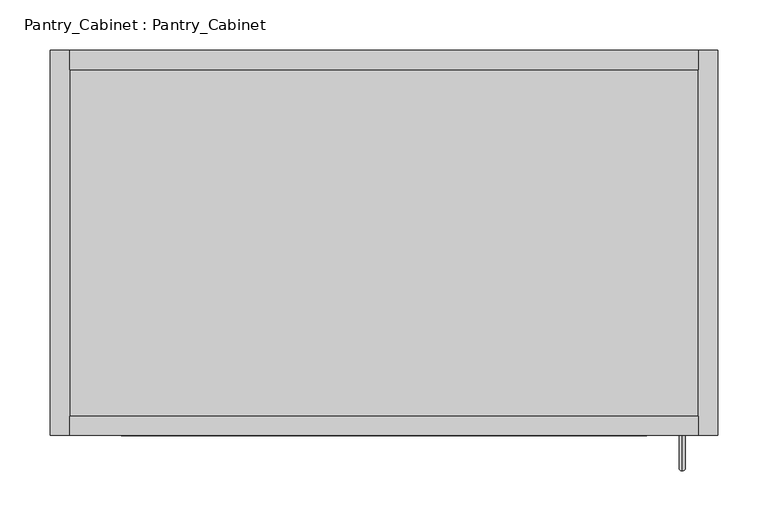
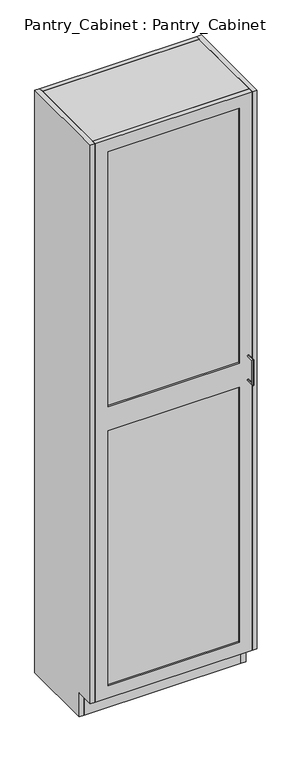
"""IFC4 building model written with IfcOpenShell, lengths in millimetres: furniture geometry, Pantry_Cabinet : Pantry_Cabinet."""

from ifc_helpers import new_model, si_unit, frame, origin, origin_with_axes, place, context, project, spatial, polyline, circle_curve, ellipse_curve, outline, extrude, source, transform, mapped, element, save
from ifc_brep_helpers import plane_surface, cylinder_surface, advanced_brep


def pantry_cabinet_pantry_cabinet_f1bca42e(model_context):
    return source(origin(), model_context, "Body", "SolidModel", [
        advanced_brep(
        [(34.6127049, -635.0, 1241.425), (34.6127049, -635.0, 1235.075), (34.6127049, -663.575, 1241.425), (34.6127049, -669.925, 1235.075), (34.6127049, -663.575, 1336.675), (34.6127049, -669.925, 1343.025), (34.6127049, -635.0, 1336.675), (34.6127049, -635.0, 1343.025)],
        [
            (0, 1, circle_curve(frame((34.6127049, -635.0, 1238.25), z_axis=(0.0, 1.0, 0.0), x_axis=(0.0, 0.0, -1.0)), 3.175)),
            (1, 0, circle_curve(frame((34.6127049, -635.0, 1238.25), z_axis=(0.0, 1.0, 0.0), x_axis=(0.0, 0.0, -1.0)), 3.175)),
            (0, 2),
            (2, 3, ellipse_curve(frame((34.6127049, -666.75, 1238.25), z_axis=(0.0, 0.7071067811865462, -0.7071067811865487), x_axis=(0.0, 0.7071067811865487, 0.7071067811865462)), 4.4901281, 3.175)),
            (3, 1),
            (3, 2, ellipse_curve(frame((34.6127049, -666.75, 1238.25), z_axis=(0.0, 0.7071067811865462, -0.7071067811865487), x_axis=(0.0, 0.7071067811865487, 0.7071067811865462)), 4.4901281, 3.175)),
            (2, 4),
            (4, 5, ellipse_curve(frame((34.6127049, -666.75, 1339.85), z_axis=(0.0, -0.7071067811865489, -0.7071067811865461), x_axis=(0.0, 0.7071067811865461, -0.7071067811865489)), 4.4901281, 3.175)),
            (5, 3),
            (5, 4, ellipse_curve(frame((34.6127049, -666.75, 1339.85), z_axis=(0.0, -0.7071067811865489, -0.7071067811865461), x_axis=(0.0, 0.7071067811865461, -0.7071067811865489)), 4.4901281, 3.175)),
            (6, 7, circle_curve(frame((34.6127049, -635.0, 1339.85), z_axis=(0.0, 1.0, 0.0), x_axis=(0.0, 0.0, 1.0)), 3.175)),
            (7, 6, circle_curve(frame((34.6127049, -635.0, 1339.85), z_axis=(0.0, 1.0, 0.0), x_axis=(0.0, 0.0, 1.0)), 3.175)),
            (4, 6),
            (7, 5),
        ],
        [
            plane_surface(frame((34.6127049, -635.0, 1238.25), z_axis=(0.0, 1.0, 0.0), x_axis=(1.0, 0.0, 0.0))),
            cylinder_surface(frame((34.6127049, -635.0, 1238.25), z_axis=(0.0, 1.0, 0.0), x_axis=(0.0, 0.0, -1.0)), 3.175),
            cylinder_surface(frame((34.6127049, -666.75, 1238.25), z_axis=(0.0, 0.0, -1.0), x_axis=(0.0, -1.0, 0.0)), 3.175),
            plane_surface(frame((34.6127049, -635.0, 1339.85), z_axis=(0.0, 1.0, 0.0), x_axis=(1.0, 0.0, 0.0))),
            cylinder_surface(frame((34.6127049, -666.75, 1339.85), z_axis=(0.0, -1.0, 0.0), x_axis=(0.0, 0.0, 1.0)), 3.175),
        ],
        [
            (0, [[1, 2]]),
            (1, [[-1, 3, 4, 5]]),
            (1, [[-2, -5, 6, -3]]),
            (2, [[-4, 7, 8, 9]]),
            (2, [[-6, -9, 10, -7]]),
            (3, [[11, 12]]),
            (4, [[-8, 13, -12, 14]]),
            (4, [[-10, -14, -11, -13]]),
        ],
    ),
        extrude(outline(polyline([(-0.3122951, -628.65), (-521.0122951, -628.65), (-521.0122951, -622.3), (-0.3122951, -622.3), (-0.3122951, -628.65)])), frame((0.0, 0.0, 152.4), z_axis=(0.0, 0.0, 1.0), x_axis=(1.0, 0.0, 0.0)), (0.0, 0.0, 1.0), 1066.8),
        extrude(outline(polyline([(-0.3122951, -628.65), (-521.0122951, -628.65), (-521.0122951, -622.3), (-0.3122951, -622.3), (-0.3122951, -628.65)])), frame((0.0, 0.0, 1320.8), z_axis=(0.0, 0.0, 1.0), x_axis=(1.0, 0.0, 0.0)), (0.0, 0.0, 1.0), 1066.8),
        extrude(outline(polyline([(101.6, 50.4877049), (2438.4, 50.4877049), (2438.4, -571.8122951), (101.6, -571.8122951), (101.6, 50.4877049)]), holes=[polyline([(1219.2, -0.3122951), (152.4, -0.3122951), (152.4, -521.0122951), (1219.2, -521.0122951), (1219.2, -0.3122951)]), polyline([(2387.6, -0.3122951), (1320.8, -0.3122951), (1320.8, -521.0122951), (2387.6, -521.0122951), (2387.6, -0.3122951)])]), frame((0.0, -273.05, 0.0), z_axis=(0.0, 1.0, 0.0), x_axis=(0.0, 0.0, 1.0)), (0.0, 0.0, 1.0), 19.05),
        extrude(outline(polyline([(101.6, 50.4877049), (2438.4, 50.4877049), (2438.4, -571.8122951), (101.6, -571.8122951), (101.6, 50.4877049)]), holes=[polyline([(1219.2, -0.3122951), (152.4, -0.3122951), (152.4, -521.0122951), (1219.2, -521.0122951), (1219.2, -0.3122951)]), polyline([(2387.6, -0.3122951), (1320.8, -0.3122951), (1320.8, -521.0122951), (2387.6, -521.0122951), (2387.6, -0.3122951)])]), frame((0.0, -635.0, 0.0), z_axis=(0.0, 1.0, 0.0), x_axis=(0.0, 0.0, 1.0)), (0.0, 0.0, 1.0), 19.05),
        extrude(outline(polyline([(-558.8, 101.6), (-635.0, 101.6), (-635.0, 2438.4), (-254.0, 2438.4), (-254.0, 0.0), (-558.8, 0.0), (-558.8, 101.6)])), frame((-590.8622951, 0.0, 0.0), z_axis=(1.0, 0.0, 0.0), x_axis=(0.0, 1.0, 0.0)), (0.0, 0.0, 1.0), 19.05),
        extrude(outline(polyline([(-558.8, 101.6), (-635.0, 101.6), (-635.0, 2438.4), (-254.0, 2438.4), (-254.0, 0.0), (-558.8, 0.0), (-558.8, 101.6)])), frame((50.4877049, 0.0, 0.0), z_axis=(1.0, 0.0, 0.0), x_axis=(0.0, 1.0, 0.0)), (0.0, 0.0, 1.0), 19.05),
        extrude(outline(polyline([(50.4877049, -273.05), (50.4877049, -615.95), (-571.8122951, -615.95), (-571.8122951, -273.05), (50.4877049, -273.05)])), frame((0.0, 0.0, 101.6), z_axis=(0.0, 0.0, 1.0), x_axis=(1.0, 0.0, 0.0)), (0.0, 0.0, 1.0), 19.05),
        extrude(outline(polyline([(50.4877049, -273.05), (50.4877049, -615.95), (-571.8122951, -615.95), (-571.8122951, -273.05), (50.4877049, -273.05)])), frame((0.0, 0.0, 2419.35), z_axis=(0.0, 0.0, 1.0), x_axis=(1.0, 0.0, 0.0)), (0.0, 0.0, 1.0), 19.05),
        extrude(outline(polyline([(50.4877049, -273.05), (50.4877049, -558.8), (-571.8122951, -558.8), (-571.8122951, -273.05), (50.4877049, -273.05)])), origin_with_axes(), (0.0, 0.0, 1.0), 101.6),
        extrude(outline(polyline([(50.4877049, -273.05), (50.4877049, -615.95), (-571.8122951, -615.95), (-571.8122951, -273.05), (50.4877049, -273.05)])), frame((0.0, 0.0, 880.5333333), z_axis=(0.0, 0.0, 1.0), x_axis=(1.0, 0.0, 0.0)), (0.0, 0.0, 1.0), 19.05),
        extrude(outline(polyline([(50.4877049, -273.05), (50.4877049, -615.95), (-571.8122951, -615.95), (-571.8122951, -273.05), (50.4877049, -273.05)])), frame((0.0, 0.0, 491.0666667), z_axis=(0.0, 0.0, 1.0), x_axis=(1.0, 0.0, 0.0)), (0.0, 0.0, 1.0), 19.05),
        extrude(outline(polyline([(50.4877049, -273.05), (50.4877049, -615.95), (-571.8122951, -615.95), (-571.8122951, -273.05), (50.4877049, -273.05)])), frame((0.0, 0.0, 2036.2333333), z_axis=(0.0, 0.0, 1.0), x_axis=(1.0, 0.0, 0.0)), (0.0, 0.0, 1.0), 19.05),
        extrude(outline(polyline([(50.4877049, -273.05), (50.4877049, -615.95), (-571.8122951, -615.95), (-571.8122951, -273.05), (50.4877049, -273.05)])), frame((0.0, 0.0, 1653.1166667), z_axis=(0.0, 0.0, 1.0), x_axis=(1.0, 0.0, 0.0)), (0.0, 0.0, 1.0), 19.05),
        extrude(outline(polyline([(50.4877049, -273.05), (50.4877049, -615.95), (-571.8122951, -615.95), (-571.8122951, -273.05), (50.4877049, -273.05)])), frame((0.0, 0.0, 1270.0), z_axis=(0.0, 0.0, 1.0), x_axis=(1.0, 0.0, 0.0)), (0.0, 0.0, 1.0), 19.05),
        extrude(outline(polyline([(-0.3122951, -266.7), (-521.0122951, -266.7), (-521.0122951, -254.0), (-0.3122951, -254.0), (-0.3122951, -266.7)])), frame((0.0, 0.0, 152.4), z_axis=(0.0, 0.0, 1.0), x_axis=(1.0, 0.0, 0.0)), (0.0, 0.0, 1.0), 1066.8),
        extrude(outline(polyline([(-0.3122951, -266.7), (-521.0122951, -266.7), (-521.0122951, -260.35), (-0.3122951, -260.35), (-0.3122951, -266.7)])), frame((0.0, 0.0, 1320.8), z_axis=(0.0, 0.0, 1.0), x_axis=(1.0, 0.0, 0.0)), (0.0, 0.0, 1.0), 1066.8),
    ])


if __name__ == "__main__":
    model = new_model("IFC4")
    model_context = context("Model", 3, world=origin())
    ifc_project = project(units=[si_unit("LENGTHUNIT", "METRE", prefix="MILLI")], contexts=[model_context])
    site = spatial("IfcSite", under=ifc_project)
    building = spatial("IfcBuilding", under=site)
    placement = place(None, origin())
    pantry_cabinet_pantry_cabinet_shape = pantry_cabinet_pantry_cabinet_f1bca42e(model_context)
    element("IfcFurniture", 1, ObjectType="Pantry_Cabinet : Pantry_Cabinet", at=placement, inside=building, context=model_context, shape_type="MappedRepresentation", body=[
        mapped(pantry_cabinet_pantry_cabinet_shape, transform((0.0, 0.0, 0.0), x_axis=(1.0, 0.0, 0.0), y_axis=(0.0, 1.0, 0.0), z_axis=(0.0, 0.0, 1.0))),
    ])
    save(model, "model.ifc")
